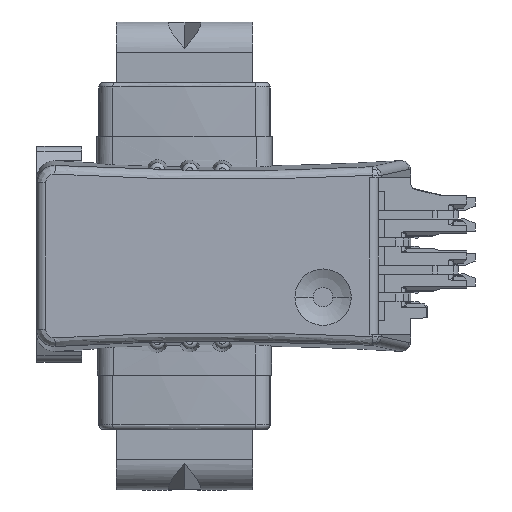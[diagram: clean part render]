
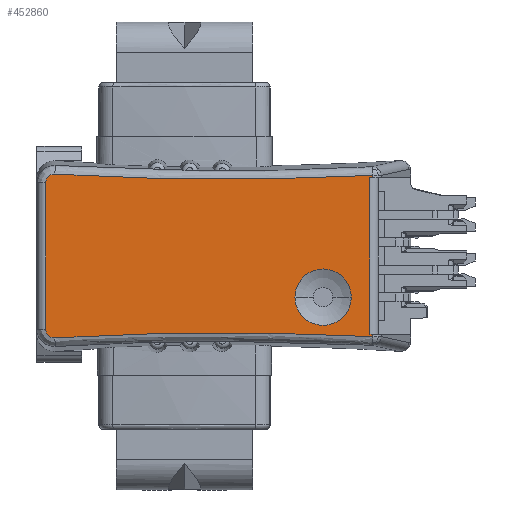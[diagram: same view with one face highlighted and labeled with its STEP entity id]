
A CAD part, left-side view. The second image highlights one B-rep face of the part: STEP entity #452860.
In plain terms, the highlighted planar face has unit normal (-1, -0.009, 0).
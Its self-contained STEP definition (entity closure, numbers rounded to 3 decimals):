
#53720=CARTESIAN_POINT('',(46.16,19.706,
2.489));
#53730=VERTEX_POINT('',#53720);
#53920=CARTESIAN_POINT('',(46.164,19.281,
2.889));
#53930=VERTEX_POINT('',#53920);
#53960=CARTESIAN_POINT('',(46.164,19.305,
2.489));
#53970=DIRECTION('',(1.,0.009,
0.));
#53980=DIRECTION('',(0.009,-1.,0.));
#53990=AXIS2_PLACEMENT_3D('',#53960,#53970,#53980);
#54000=CIRCLE('',#53990,0.4);
#54010=EDGE_CURVE('',#53730,#53930,#54000,.T.);
#112890=CARTESIAN_POINT('',(46.292,4.61,
-4.607));
#112900=DIRECTION('',(0.,0.,1.));
#112910=VECTOR('',#112900,1.);
#112920=LINE('',#112890,#112910);
#112930=CARTESIAN_POINT('',(46.292,4.61,
-4.607));
#112940=VERTEX_POINT('',#112930);
#112950=CARTESIAN_POINT('',(46.292,4.61,
-4.493));
#112960=VERTEX_POINT('',#112950);
#112970=EDGE_CURVE('',#112940,#112960,#112920,.T.);
#120440=CARTESIAN_POINT('',(46.292,4.61,
2.718));
#120450=VERTEX_POINT('',#120440);
#120690=CARTESIAN_POINT('',(46.291,4.746,
2.716));
#120700=VERTEX_POINT('',#120690);
#120730=CARTESIAN_POINT('',(46.332,0.,2.796));
#120740=DIRECTION('',(-0.009,1.,
-0.017));
#120750=VECTOR('',#120740,1.);
#120760=LINE('',#120730,#120750);
#120770=EDGE_CURVE('',#120450,#120700,#120760,.T.);
#161700=CARTESIAN_POINT('',(46.291,4.746,
-4.491));
#161710=VERTEX_POINT('',#161700);
#161830=CARTESIAN_POINT('',(46.332,0.,-4.573));
#161840=DIRECTION('',(0.009,-1.,
-0.017));
#161850=VECTOR('',#161840,1.);
#161860=LINE('',#161830,#161850);
#161870=EDGE_CURVE('',#161710,#112960,#161860,.T.);
#199580=CARTESIAN_POINT('',(46.292,4.61,
2.832));
#199590=VERTEX_POINT('',#199580);
#199620=CARTESIAN_POINT('',(46.233,11.439,
133.065));
#199630=DIRECTION('',(-1.,-0.009,
0.));
#199640=DIRECTION('',(-0.009,1.,0.));
#199650=AXIS2_PLACEMENT_3D('',#199620,#199630,#199640);
#199660=CIRCLE('',#199650,130.412);
#199670=EDGE_CURVE('',#53930,#199590,#199660,.T.);
#255300=CARTESIAN_POINT('',(46.291,4.746,
-4.491));
#255310=DIRECTION('',(0.,0.,1.));
#255320=VECTOR('',#255310,1.);
#255330=LINE('',#255300,#255320);
#255340=EDGE_CURVE('',#161710,#120700,#255330,.T.);
#262230=CARTESIAN_POINT('',(46.292,4.61,
2.832));
#262240=DIRECTION('',(0.,0.,-1.));
#262250=VECTOR('',#262240,1.);
#262260=LINE('',#262230,#262250);
#262270=EDGE_CURVE('',#199590,#120450,#262260,.T.);
#262460=CARTESIAN_POINT('',(46.16,19.706,
-4.264));
#262470=DIRECTION('',(0.,0.,1.));
#262480=VECTOR('',#262470,1.);
#262490=LINE('',#262460,#262480);
#262500=CARTESIAN_POINT('',(46.16,19.706,
-4.264));
#262510=VERTEX_POINT('',#262500);
#262520=EDGE_CURVE('',#262510,#53730,#262490,.T.);
#263130=CARTESIAN_POINT('',(46.164,19.282,
-4.664));
#263140=VERTEX_POINT('',#263130);
#263170=CARTESIAN_POINT('',(46.233,11.439,
-134.837));
#263180=DIRECTION('',(-1.,-0.009,
0.));
#263190=DIRECTION('',(-0.009,1.,0.));
#263200=AXIS2_PLACEMENT_3D('',#263170,#263180,#263190);
#263210=CIRCLE('',#263200,130.41);
#263220=EDGE_CURVE('',#112940,#263140,#263210,.T.);
#264110=CARTESIAN_POINT('',(46.164,19.306,
-4.264));
#264120=DIRECTION('',(1.,0.009,
0.));
#264130=DIRECTION('',(0.009,-1.,0.));
#264140=AXIS2_PLACEMENT_3D('',#264110,#264120,#264130);
#264150=CIRCLE('',#264140,0.4);
#264160=EDGE_CURVE('',#263140,#262510,#264150,.T.);
#452500=CARTESIAN_POINT('',(46.16,19.706,
-4.665));
#452510=DIRECTION('',(-1.,-0.009,0.));
#452520=DIRECTION('',(-0.009,1.,0.));
#452530=AXIS2_PLACEMENT_3D('',#452500,#452510,#452520);
#452540=PLANE('',#452530);
#452550=ORIENTED_EDGE('',*,*,#264160,.F.);
#452560=ORIENTED_EDGE('',*,*,#262520,.F.);
#452570=ORIENTED_EDGE('',*,*,#54010,.F.);
#452580=ORIENTED_EDGE('',*,*,#199670,.F.);
#452590=ORIENTED_EDGE('',*,*,#262270,.F.);
#452600=ORIENTED_EDGE('',*,*,#120770,.F.);
#452610=ORIENTED_EDGE('',*,*,#255340,.T.);
#452620=ORIENTED_EDGE('',*,*,#161870,.F.);
#452630=ORIENTED_EDGE('',*,*,#112970,.T.);
#452640=ORIENTED_EDGE('',*,*,#263220,.F.);
#452650=EDGE_LOOP('',(#452640,#452630,#452620,#452610,#452600,#452590,
#452580,#452570,#452560,#452550));
#452660=FACE_OUTER_BOUND('',#452650,.T.);
#452670=CARTESIAN_POINT('',(46.272,6.9,
-2.787));
#452680=DIRECTION('',(-1.,-0.009,0.));
#452690=DIRECTION('',(-0.009,1.,0.));
#452700=AXIS2_PLACEMENT_3D('',#452670,#452680,#452690);
#452710=CIRCLE('',#452700,1.301);
#452720=CARTESIAN_POINT('',(46.272,6.9,
-4.088));
#452730=VERTEX_POINT('',#452720);
#452740=CARTESIAN_POINT('',(46.284,5.599,
-2.787));
#452750=VERTEX_POINT('',#452740);
#452760=EDGE_CURVE('',#452730,#452750,#452710,.T.);
#452770=ORIENTED_EDGE('',*,*,#452760,.F.);
#452780=CARTESIAN_POINT('',(46.261,8.2,
-2.787));
#452790=VERTEX_POINT('',#452780);
#452800=EDGE_CURVE('',#452750,#452790,#452710,.T.);
#452810=ORIENTED_EDGE('',*,*,#452800,.F.);
#452820=EDGE_CURVE('',#452790,#452730,#452710,.T.);
#452830=ORIENTED_EDGE('',*,*,#452820,.F.);
#452840=EDGE_LOOP('',(#452830,#452810,#452770));
#452850=FACE_BOUND('',#452840,.T.);
#452860=ADVANCED_FACE('',(#452660,#452850),#452540,.T.);
